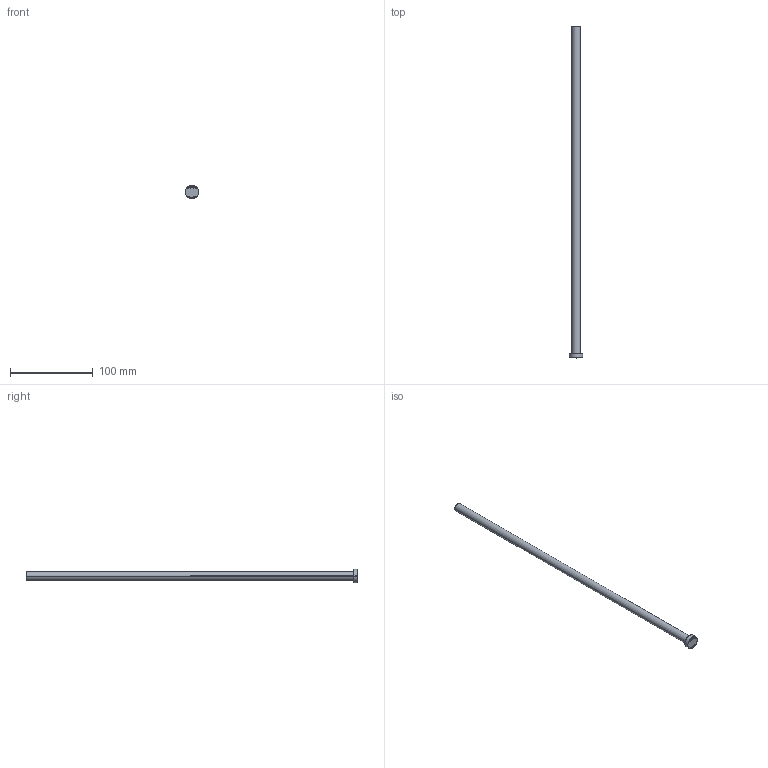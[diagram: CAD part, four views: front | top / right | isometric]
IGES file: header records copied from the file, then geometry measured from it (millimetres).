
Start section: SolidWorks IGES file using analytic representation for surfaces
Global section: file name: C:\Users\User\Downloads\Matripeça 31-08 tar\PB - PINO EXTRATOR TIPO _B_ (CATÁLOGO)\PB10,0\PB10,0400.IGS; native system: SolidWorks 2024; preprocessor: SolidWorks 2024; author: User; date: 260901.150802; units: millimetre
Bounding box: 16 x 400 x 16 mm (x, y, z)
Surface area: 13068.7 mm2 (no closed solid volume)
Topology: 0 solids, 0 shells, 396 faces, 3895 edges, 3895 vertices
Faces by surface type: bspline 382, revolution 14
